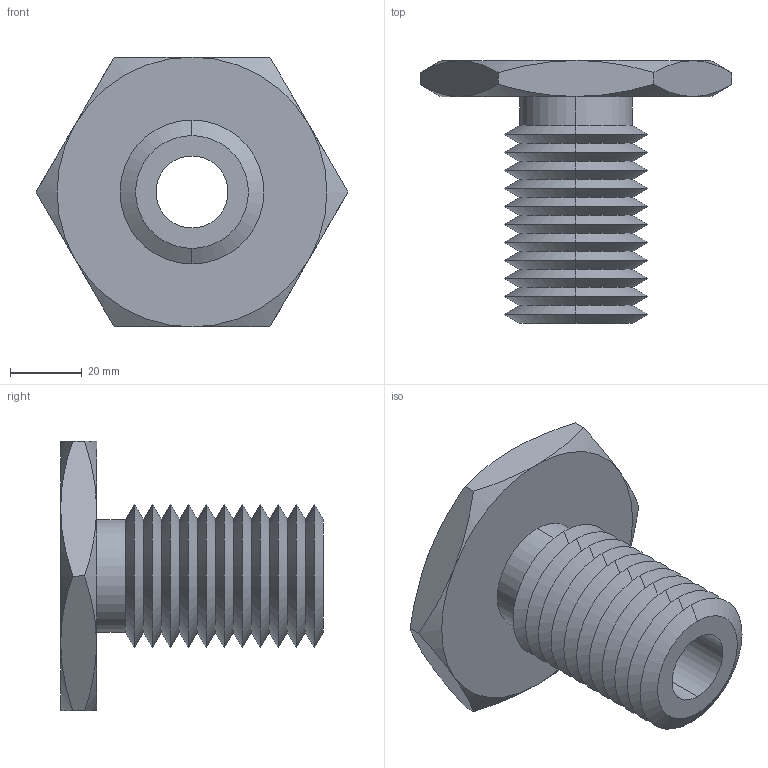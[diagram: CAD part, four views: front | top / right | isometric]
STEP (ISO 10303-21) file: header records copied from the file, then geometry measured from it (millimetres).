
FILE_DESCRIPTION (( 'STEP AP203' ), '1' );
FILE_NAME ('63302.W0042_M20x2,5.step', '2013-12-08T11:13:26', ( 'User' ), ( '' ), 'SwSTEP 2.0', 'SolidWorks 2009', '' );
FILE_SCHEMA (( 'CONFIG_CONTROL_DESIGN' ));
Length unit declared in the file: millimetre
Products named in the file (1): 63302.W0042_M20x2,5
Bounding box: 86.6 x 73 x 75 mm (x, y, z)
Volume: 86053.5 mm3; surface area: 28873 mm2
Topology: 1 solids, 1 shells, 71 faces, 146 edges, 78 vertices
Faces by surface type: cone 58, plane 9, cylinder 4
Entity records: 2039 total; most frequent: CARTESIAN_POINT 480, DIRECTION 332, ORIENTED_EDGE 292, EDGE_CURVE 146, AXIS2_PLACEMENT_3D 138, VERTEX_POINT 78, EDGE_LOOP 74, ADVANCED_FACE 71
